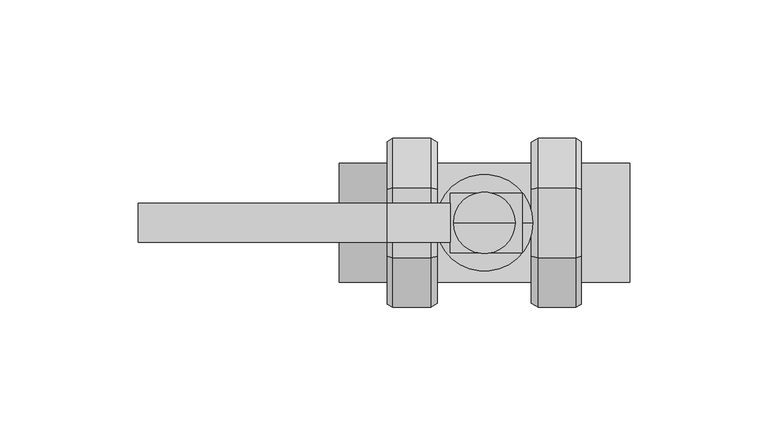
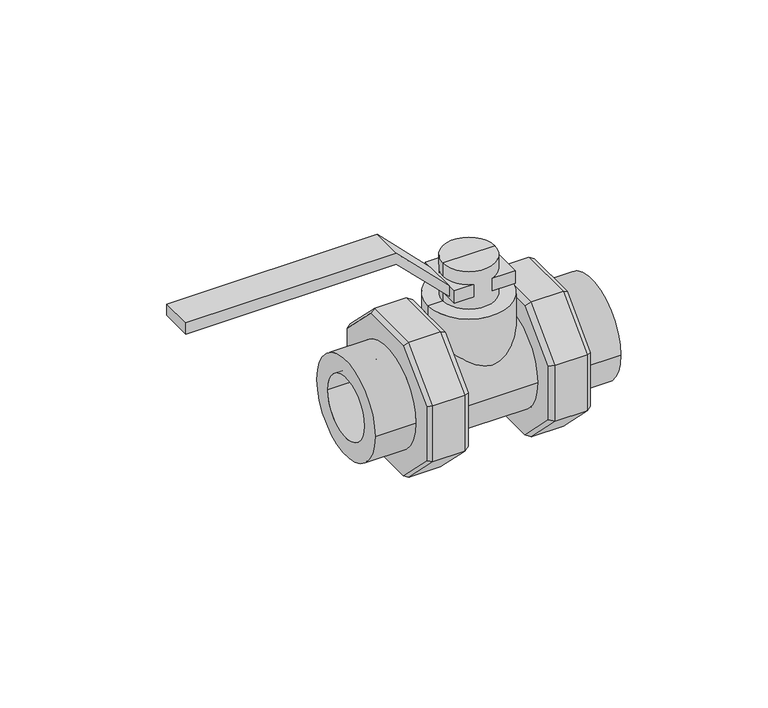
"""IFC4 building model written with IfcOpenShell, lengths in millimetres: valve geometry, EGB_VASEN_ PPR_Valvula de bola doble union WXR800 : Válvula de bola doble unión WXR800."""

from ifc_helpers import new_model, si_unit, point, frame, origin, origin_2d, place, context, project, spatial, polyline, circle_curve, trimmed, segment, composite_curve, outline, extrude, source, transform, mapped, element, save
from ifc_brep_helpers import plane_surface, cylinder_surface, revolved_surface, advanced_brep


def valve_0729169a(model_context):
    return source(origin(), model_context, "Body", "SolidModel", [
        advanced_brep(
        [(33.0, 12.6335137, 30.5), (33.0, 30.5, 12.6335137), (19.4052245, 30.5, 12.6335137), (19.4052245, 12.6335137, 30.5), (19.4052245, -12.6335137, 30.5), (33.0, -12.6335137, 30.5), (33.0, -12.6335137, -30.5), (33.0, -30.5, -12.6335137), (19.4052245, -30.5, -12.6335137), (19.4052245, -12.6335137, -30.5), (19.4052245, 12.6335137, -30.5), (33.0, 12.6335137, -30.5), (19.4052245, -30.5, 12.6335137), (33.0, -30.5, 12.6335137), (19.4052245, 30.5, -12.6335137), (33.0, 30.5, -12.6335137), (35.0, 12.155221, 29.3452995), (35.0, -12.155221, 29.3452995), (35.0, -29.3452995, 12.155221), (35.0, -29.3452995, -12.155221), (35.0, -12.155221, -29.3452995), (35.0, 12.155221, -29.3452995), (35.0, 29.3452995, -12.155221), (35.0, 29.3452995, 12.155221), (35.0, 21.5, 0.0), (35.0, -21.5, 0.0), (16.9557348, 29.0857864, 12.0477272), (16.9557348, 29.0857864, -12.0477272), (16.9557348, 12.0477272, -29.0857864), (16.9557348, -12.0477272, -29.0857864), (16.9557348, -29.0857864, -12.0477272), (16.9557348, -29.0857864, 12.0477272), (16.9557348, -12.0477272, 29.0857864), (16.9557348, 12.0477272, 29.0857864), (16.9557348, -21.5, 0.0), (16.9557348, 21.5, 0.0)],
        [
            (0, 1),
            (1, 2),
            (2, 3),
            (3, 0),
            (3, 4),
            (4, 5),
            (5, 0),
            (6, 7),
            (7, 8),
            (8, 9),
            (9, 6),
            (9, 10),
            (10, 11),
            (11, 6),
            (4, 12),
            (12, 13),
            (13, 5),
            (12, 8),
            (7, 13),
            (10, 14),
            (14, 15),
            (15, 11),
            (16, 17),
            (17, 18),
            (18, 19),
            (19, 20),
            (20, 21),
            (21, 22),
            (22, 23),
            (23, 16),
            (24, 25, circle_curve(frame((35.0, 0.0, 0.0), z_axis=(-1.0, 0.0, 0.0), x_axis=(0.0, -1.0, 0.0)), 21.5)),
            (25, 24, circle_curve(frame((35.0, 0.0, 0.0), z_axis=(-1.0, 0.0, 0.0), x_axis=(0.0, -1.0, 0.0)), 21.5)),
            (14, 2),
            (1, 15),
            (26, 27),
            (27, 28),
            (28, 29),
            (29, 30),
            (30, 31),
            (31, 32),
            (32, 33),
            (33, 26),
            (34, 35, circle_curve(frame((16.9557348, 0.0, 0.0), z_axis=(1.0, 0.0, 0.0), x_axis=(0.0, -1.0, 0.0)), 21.5)),
            (35, 34, circle_curve(frame((16.9557348, 0.0, 0.0), z_axis=(1.0, 0.0, 0.0), x_axis=(0.0, -1.0, 0.0)), 21.5)),
            (2, 26),
            (33, 3),
            (23, 1),
            (0, 16),
            (32, 4),
            (5, 17),
            (8, 30),
            (29, 9),
            (19, 7),
            (6, 20),
            (28, 10),
            (11, 21),
            (31, 12),
            (13, 18),
            (27, 14),
            (15, 22),
            (25, 34),
            (35, 24),
        ],
        [
            plane_surface(frame((35.0, 30.5, 12.6335137), z_axis=(0.0, 0.7071067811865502, 0.7071067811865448), x_axis=(0.0, -0.7071067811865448, 0.7071067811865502))),
            plane_surface(frame((35.0, 12.6335137, 30.5), z_axis=(0.0, 0.0, 1.0), x_axis=(0.0, -1.0, 0.0))),
            plane_surface(frame((35.0, -30.5, -12.6335137), z_axis=(0.0, -0.7071067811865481, -0.7071067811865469), x_axis=(0.0, 0.7071067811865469, -0.7071067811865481))),
            plane_surface(frame((35.0, -12.6335137, -30.5), z_axis=(0.0, 0.0, -1.0), x_axis=(0.0, 1.0, 0.0))),
            plane_surface(frame((35.0, -12.6335137, 30.5), z_axis=(0.0, -0.7071067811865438, 0.7071067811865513), x_axis=(0.0, -0.7071067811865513, -0.7071067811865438))),
            plane_surface(frame((35.0, -30.5, 12.6335137), z_axis=(0.0, -1.0, 0.0), x_axis=(0.0, 0.0, -1.0))),
            plane_surface(frame((35.0, 12.6335137, -30.5), z_axis=(0.0, 0.707106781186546, -0.7071067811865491), x_axis=(0.0, 0.7071067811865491, 0.707106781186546))),
            plane_surface(frame((35.0, 0.0, 0.0), z_axis=(1.0, 0.0, 0.0), x_axis=(0.0, 0.0, 1.0))),
            plane_surface(frame((35.0, 30.5, -12.6335137), z_axis=(0.0, 1.0, 0.0), x_axis=(0.0, 0.0, 1.0))),
            plane_surface(frame((16.9557348, 30.5, -12.6335137), z_axis=(-1.0, 0.0, 0.0), x_axis=(0.0, 0.0, 1.0))),
            plane_surface(frame((16.9557348, 29.0857864, 12.0477272), z_axis=(-0.4999999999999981, 0.612372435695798, 0.612372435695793), x_axis=(0.0, -0.7071067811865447, 0.7071067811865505))),
            plane_surface(frame((33.0, 30.5, 12.6335137), z_axis=(0.4999999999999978, 0.6123724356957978, 0.612372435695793), x_axis=(0.0, -0.7071067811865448, 0.7071067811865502))),
            plane_surface(frame((16.9557348, 12.0477272, 29.0857864), z_axis=(-0.499999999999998, 0.0, 0.8660254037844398), x_axis=(0.0, -1.0, 0.0))),
            plane_surface(frame((33.0, 12.6335137, 30.5), z_axis=(0.4999999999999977, 0.0, 0.86602540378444), x_axis=(0.0, -1.0, 0.0))),
            plane_surface(frame((16.9557348, -29.0857864, -12.0477272), z_axis=(-0.4999999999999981, -0.6123724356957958, -0.6123724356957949), x_axis=(0.0, 0.707106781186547, -0.707106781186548))),
            plane_surface(frame((33.0, -30.5, -12.6335137), z_axis=(0.4999999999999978, -0.6123724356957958, -0.612372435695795), x_axis=(0.0, 0.707106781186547, -0.707106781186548))),
            plane_surface(frame((16.9557348, -12.0477272, -29.0857864), z_axis=(-0.4999999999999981, 0.0, -0.8660254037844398), x_axis=(0.0, 1.0, 0.0))),
            plane_surface(frame((33.0, -12.6335137, -30.5), z_axis=(0.4999999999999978, 0.0, -0.86602540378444), x_axis=(0.0, 1.0, 0.0))),
            plane_surface(frame((16.9557348, -12.0477272, 29.0857864), z_axis=(-0.4999999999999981, -0.6123724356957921, 0.6123724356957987), x_axis=(0.0, -0.7071067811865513, -0.7071067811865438))),
            plane_surface(frame((33.0, -12.6335137, 30.5), z_axis=(0.49999999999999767, -0.6123724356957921, 0.6123724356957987), x_axis=(0.0, -0.7071067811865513, -0.7071067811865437))),
            plane_surface(frame((16.9557348, -29.0857864, 12.0477272), z_axis=(-0.4999999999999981, -0.8660254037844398, 0.0), x_axis=(0.0, 0.0, -1.0))),
            plane_surface(frame((33.0, -30.5, 12.6335137), z_axis=(0.4999999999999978, -0.86602540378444, 0.0), x_axis=(0.0, 0.0, -1.0))),
            plane_surface(frame((16.9557348, 12.0477272, -29.0857864), z_axis=(-0.4999999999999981, 0.6123724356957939, -0.6123724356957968), x_axis=(0.0, 0.7071067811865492, 0.7071067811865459))),
            plane_surface(frame((33.0, 12.6335137, -30.5), z_axis=(0.4999999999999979, 0.612372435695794, -0.6123724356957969), x_axis=(0.0, 0.7071067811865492, 0.7071067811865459))),
            plane_surface(frame((16.9557348, 29.0857864, -12.0477272), z_axis=(-0.4999999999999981, 0.8660254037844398, 0.0), x_axis=(0.0, 0.0, 1.0))),
            plane_surface(frame((33.0, 30.5, -12.6335137), z_axis=(0.4999999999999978, 0.86602540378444, 0.0), x_axis=(0.0, 0.0, 1.0))),
            revolved_surface(polyline([(16.9557348, -21.5, 0.0), (35.0, -21.5, 0.0)]), (35.0, 0.0, 0.0), (-1.0, 0.0, 0.0)),
        ],
        [
            (0, [[1, 2, 3, 4]]),
            (1, [[5, 6, 7, -4]]),
            (2, [[8, 9, 10, 11]]),
            (3, [[12, 13, 14, -11]]),
            (4, [[15, 16, 17, -6]]),
            (5, [[18, -9, 19, -16]]),
            (6, [[20, 21, 22, -13]]),
            (7, [[23, 24, 25, 26, 27, 28, 29, 30], [31, 32]]),
            (8, [[33, -2, 34, -21]]),
            (9, [[35, 36, 37, 38, 39, 40, 41, 42], [43, 44]]),
            (10, [[-3, 45, -42, 46]]),
            (11, [[-30, 47, -1, 48]]),
            (12, [[-41, 49, -5, -46]]),
            (13, [[-7, 50, -23, -48]]),
            (14, [[-10, 51, -38, 52]]),
            (15, [[-26, 53, -8, 54]]),
            (16, [[-37, 55, -12, -52]]),
            (17, [[-14, 56, -27, -54]]),
            (18, [[-40, 57, -15, -49]]),
            (19, [[-17, 58, -24, -50]]),
            (20, [[-18, -57, -39, -51]]),
            (21, [[-25, -58, -19, -53]]),
            (22, [[-36, 59, -20, -55]]),
            (23, [[-22, 60, -28, -56]]),
            (24, [[-33, -59, -35, -45]]),
            (25, [[-29, -60, -34, -47]]),
            (26, [[-32, 61, -44, 62]]),
            (26, [[-43, -61, -31, -62]]),
        ],
    ),
        advanced_brep(
        [(-33.0, 12.6335137, 30.5), (-19.4052245, 12.6335137, 30.5), (-19.4052245, 30.5, 12.6335137), (-33.0, 30.5, 12.6335137), (-33.0, -12.6335137, 30.5), (-19.4052245, -12.6335137, 30.5), (-33.0, -12.6335137, -30.5), (-19.4052245, -12.6335137, -30.5), (-19.4052245, -30.5, -12.6335137), (-33.0, -30.5, -12.6335137), (-33.0, 12.6335137, -30.5), (-19.4052245, 12.6335137, -30.5), (-33.0, -30.5, 12.6335137), (-19.4052245, -30.5, 12.6335137), (-33.0, 30.5, -12.6335137), (-19.4052245, 30.5, -12.6335137), (-35.0, 12.155221, 29.3452995), (-35.0, 29.3452995, 12.155221), (-35.0, 29.3452995, -12.155221), (-35.0, 12.155221, -29.3452995), (-35.0, -12.155221, -29.3452995), (-35.0, -29.3452995, -12.155221), (-35.0, -29.3452995, 12.155221), (-35.0, -12.155221, 29.3452995), (-35.0, 21.5, 0.0), (-35.0, -21.5, 0.0), (-16.9557348, 29.0857864, 12.0477272), (-16.9557348, 12.0477272, 29.0857864), (-16.9557348, -12.0477272, 29.0857864), (-16.9557348, -29.0857864, 12.0477272), (-16.9557348, -29.0857864, -12.0477272), (-16.9557348, -12.0477272, -29.0857864), (-16.9557348, 12.0477272, -29.0857864), (-16.9557348, 29.0857864, -12.0477272), (-16.9557348, -21.5, 0.0), (-16.9557348, 21.5, 0.0)],
        [
            (0, 1),
            (1, 2),
            (2, 3),
            (3, 0),
            (0, 4),
            (4, 5),
            (5, 1),
            (6, 7),
            (7, 8),
            (8, 9),
            (9, 6),
            (6, 10),
            (10, 11),
            (11, 7),
            (4, 12),
            (12, 13),
            (13, 5),
            (12, 9),
            (8, 13),
            (10, 14),
            (14, 15),
            (15, 11),
            (16, 17),
            (17, 18),
            (18, 19),
            (19, 20),
            (20, 21),
            (21, 22),
            (22, 23),
            (23, 16),
            (24, 25, circle_curve(frame((-35.0, 0.0, 0.0), z_axis=(1.0, 0.0, 0.0), x_axis=(0.0, -1.0, 0.0)), 21.5)),
            (25, 24, circle_curve(frame((-35.0, 0.0, 0.0), z_axis=(1.0, 0.0, 0.0), x_axis=(0.0, -1.0, 0.0)), 21.5)),
            (14, 3),
            (2, 15),
            (26, 27),
            (27, 28),
            (28, 29),
            (29, 30),
            (30, 31),
            (31, 32),
            (32, 33),
            (33, 26),
            (34, 35, circle_curve(frame((-16.9557348, 0.0, 0.0), z_axis=(-1.0, 0.0, 0.0), x_axis=(0.0, -1.0, 0.0)), 21.5)),
            (35, 34, circle_curve(frame((-16.9557348, 0.0, 0.0), z_axis=(-1.0, 0.0, 0.0), x_axis=(0.0, -1.0, 0.0)), 21.5)),
            (1, 27),
            (26, 2),
            (16, 0),
            (3, 17),
            (5, 28),
            (23, 4),
            (7, 31),
            (30, 8),
            (20, 6),
            (9, 21),
            (11, 32),
            (19, 10),
            (13, 29),
            (22, 12),
            (15, 33),
            (18, 14),
            (24, 35),
            (34, 25),
        ],
        [
            plane_surface(frame((-35.0, 30.5, 12.6335137), z_axis=(0.0, 0.7071067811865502, 0.7071067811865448), x_axis=(0.0, -0.7071067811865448, 0.7071067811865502))),
            plane_surface(frame((-35.0, 12.6335137, 30.5), z_axis=(0.0, 0.0, 1.0), x_axis=(0.0, -1.0, 0.0))),
            plane_surface(frame((-35.0, -30.5, -12.6335137), z_axis=(0.0, -0.7071067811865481, -0.7071067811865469), x_axis=(0.0, 0.7071067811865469, -0.7071067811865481))),
            plane_surface(frame((-35.0, -12.6335137, -30.5), z_axis=(0.0, 0.0, -1.0), x_axis=(0.0, 1.0, 0.0))),
            plane_surface(frame((-35.0, -12.6335137, 30.5), z_axis=(0.0, -0.7071067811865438, 0.7071067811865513), x_axis=(0.0, -0.7071067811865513, -0.7071067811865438))),
            plane_surface(frame((-35.0, -30.5, 12.6335137), z_axis=(0.0, -1.0, 0.0), x_axis=(0.0, 0.0, -1.0))),
            plane_surface(frame((-35.0, 12.6335137, -30.5), z_axis=(0.0, 0.707106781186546, -0.7071067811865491), x_axis=(0.0, 0.7071067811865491, 0.707106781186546))),
            plane_surface(frame((-35.0, 0.0, 0.0), z_axis=(-1.0, 0.0, 0.0), x_axis=(0.0, 0.0, 1.0))),
            plane_surface(frame((-35.0, 30.5, -12.6335137), z_axis=(0.0, 1.0, 0.0), x_axis=(0.0, 0.0, 1.0))),
            plane_surface(frame((-16.9557348, 30.5, -12.6335137), z_axis=(1.0, 0.0, 0.0), x_axis=(0.0, 0.0, 1.0))),
            plane_surface(frame((-16.9557348, 29.0857864, 12.0477272), z_axis=(0.4999999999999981, 0.612372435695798, 0.612372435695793), x_axis=(0.0, -0.7071067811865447, 0.7071067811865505))),
            plane_surface(frame((-33.0, 30.5, 12.6335137), z_axis=(-0.4999999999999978, 0.6123724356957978, 0.612372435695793), x_axis=(0.0, -0.7071067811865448, 0.7071067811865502))),
            plane_surface(frame((-16.9557348, 12.0477272, 29.0857864), z_axis=(0.499999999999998, 0.0, 0.8660254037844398), x_axis=(0.0, -1.0, 0.0))),
            plane_surface(frame((-33.0, 12.6335137, 30.5), z_axis=(-0.4999999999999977, 0.0, 0.86602540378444), x_axis=(0.0, -1.0, 0.0))),
            plane_surface(frame((-16.9557348, -29.0857864, -12.0477272), z_axis=(0.4999999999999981, -0.6123724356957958, -0.6123724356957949), x_axis=(0.0, 0.707106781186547, -0.707106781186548))),
            plane_surface(frame((-33.0, -30.5, -12.6335137), z_axis=(-0.4999999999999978, -0.6123724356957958, -0.612372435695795), x_axis=(0.0, 0.707106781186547, -0.707106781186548))),
            plane_surface(frame((-16.9557348, -12.0477272, -29.0857864), z_axis=(0.4999999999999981, 0.0, -0.8660254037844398), x_axis=(0.0, 1.0, 0.0))),
            plane_surface(frame((-33.0, -12.6335137, -30.5), z_axis=(-0.4999999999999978, 0.0, -0.86602540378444), x_axis=(0.0, 1.0, 0.0))),
            plane_surface(frame((-16.9557348, -12.0477272, 29.0857864), z_axis=(0.4999999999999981, -0.6123724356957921, 0.6123724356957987), x_axis=(0.0, -0.7071067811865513, -0.7071067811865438))),
            plane_surface(frame((-33.0, -12.6335137, 30.5), z_axis=(-0.49999999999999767, -0.6123724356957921, 0.6123724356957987), x_axis=(0.0, -0.7071067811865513, -0.7071067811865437))),
            plane_surface(frame((-16.9557348, -29.0857864, 12.0477272), z_axis=(0.4999999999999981, -0.8660254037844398, 0.0), x_axis=(0.0, 0.0, -1.0))),
            plane_surface(frame((-33.0, -30.5, 12.6335137), z_axis=(-0.4999999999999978, -0.86602540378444, 0.0), x_axis=(0.0, 0.0, -1.0))),
            plane_surface(frame((-16.9557348, 12.0477272, -29.0857864), z_axis=(0.4999999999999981, 0.6123724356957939, -0.6123724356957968), x_axis=(0.0, 0.7071067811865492, 0.7071067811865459))),
            plane_surface(frame((-33.0, 12.6335137, -30.5), z_axis=(-0.4999999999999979, 0.612372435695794, -0.6123724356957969), x_axis=(0.0, 0.7071067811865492, 0.7071067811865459))),
            plane_surface(frame((-16.9557348, 29.0857864, -12.0477272), z_axis=(0.4999999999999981, 0.8660254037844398, 0.0), x_axis=(0.0, 0.0, 1.0))),
            plane_surface(frame((-33.0, 30.5, -12.6335137), z_axis=(-0.4999999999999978, 0.86602540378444, 0.0), x_axis=(0.0, 0.0, 1.0))),
            revolved_surface(polyline([(-16.9557348, -21.5, 0.0), (-35.0, -21.5, 0.0)]), (-35.0, 0.0, 0.0), (1.0, 0.0, 0.0)),
        ],
        [
            (0, [[1, 2, 3, 4]]),
            (1, [[-1, 5, 6, 7]]),
            (2, [[8, 9, 10, 11]]),
            (3, [[-8, 12, 13, 14]]),
            (4, [[-6, 15, 16, 17]]),
            (5, [[-16, 18, -10, 19]]),
            (6, [[-13, 20, 21, 22]]),
            (7, [[23, 24, 25, 26, 27, 28, 29, 30], [31, 32]]),
            (8, [[-21, 33, -3, 34]]),
            (9, [[35, 36, 37, 38, 39, 40, 41, 42], [43, 44]]),
            (10, [[45, -35, 46, -2]]),
            (11, [[47, -4, 48, -23]]),
            (12, [[-45, -7, 49, -36]]),
            (13, [[-47, -30, 50, -5]]),
            (14, [[51, -39, 52, -9]]),
            (15, [[53, -11, 54, -27]]),
            (16, [[-51, -14, 55, -40]]),
            (17, [[-53, -26, 56, -12]]),
            (18, [[-49, -17, 57, -37]]),
            (19, [[-50, -29, 58, -15]]),
            (20, [[-52, -38, -57, -19]]),
            (21, [[-54, -18, -58, -28]]),
            (22, [[-55, -22, 59, -41]]),
            (23, [[-56, -25, 60, -20]]),
            (24, [[-46, -42, -59, -34]]),
            (25, [[-48, -33, -60, -24]]),
            (26, [[61, -43, 62, -31]]),
            (26, [[-61, -32, -62, -44]]),
        ],
    ),
        advanced_brep(
        [(0.0, 0.0, 0.0), (-17.5, 0.0, 0.0), (17.5, 0.0, 0.0), (11.1120112, 0.0, 51.0), (-11.1120112, 0.0, 51.0), (0.0, 0.0, 51.0), (11.1120112, 0.0, 34.0), (-11.1120112, 0.0, 34.0), (17.5, 0.0, 34.0), (-17.5, 0.0, 34.0)],
        [
            (0, 1),
            (1, 2, circle_curve(frame((0.0, 0.0, 0.0), z_axis=(0.0, 0.0, -1.0), x_axis=(-1.0, 0.0, 0.0)), 17.5)),
            (2, 0),
            (2, 1, circle_curve(frame((0.0, 0.0, 0.0), z_axis=(0.0, 0.0, -1.0), x_axis=(-1.0, 0.0, 0.0)), 17.5)),
            (3, 4, circle_curve(frame((0.0, 0.0, 51.0), z_axis=(0.0, 0.0, 1.0), x_axis=(-1.0, 0.0, 0.0)), 11.1120112)),
            (4, 5),
            (5, 3),
            (4, 3, circle_curve(frame((0.0, 0.0, 51.0), z_axis=(0.0, 0.0, 1.0), x_axis=(-1.0, 0.0, 0.0)), 11.1120112)),
            (6, 7, circle_curve(frame((0.0, 0.0, 34.0), z_axis=(0.0, 0.0, 1.0), x_axis=(-1.0, 0.0, 0.0)), 11.1120112)),
            (7, 4),
            (3, 6),
            (7, 6, circle_curve(frame((0.0, 0.0, 34.0), z_axis=(0.0, 0.0, 1.0), x_axis=(-1.0, 0.0, 0.0)), 11.1120112)),
            (8, 9, circle_curve(frame((0.0, 0.0, 34.0), z_axis=(0.0, 0.0, 1.0), x_axis=(-1.0, 0.0, 0.0)), 17.5)),
            (9, 7),
            (6, 8),
            (9, 8, circle_curve(frame((0.0, 0.0, 34.0), z_axis=(0.0, 0.0, 1.0), x_axis=(-1.0, 0.0, 0.0)), 17.5)),
            (1, 9),
            (8, 2),
        ],
        [
            plane_surface(frame((0.0, 0.0, 0.0), z_axis=(0.0, 0.0, -1.0), x_axis=(-1.0, 0.0, 0.0))),
            plane_surface(frame((0.0, 0.0, 51.0), z_axis=(0.0, 0.0, 1.0), x_axis=(-1.0, 0.0, 0.0))),
            cylinder_surface(frame((0.0, 0.0, 79.25), z_axis=(0.0, 0.0, -1.0), x_axis=(-1.0, 0.0, 0.0)), 11.1120112),
            plane_surface(frame((0.0, 0.0, 34.0), z_axis=(0.0, 0.0, 1.0), x_axis=(-1.0, 0.0, 0.0))),
            cylinder_surface(frame((0.0, 0.0, 79.25), z_axis=(0.0, 0.0, -1.0), x_axis=(-1.0, 0.0, 0.0)), 17.5),
        ],
        [
            (0, [[1, 2, 3]]),
            (0, [[-3, 4, -1]]),
            (1, [[5, 6, 7]]),
            (1, [[8, -7, -6]]),
            (2, [[9, 10, -5, 11]]),
            (2, [[12, -11, -8, -10]]),
            (3, [[13, 14, -9, 15]]),
            (3, [[16, -15, -12, -14]]),
            (4, [[-2, 17, -13, 18]]),
            (4, [[-4, -18, -16, -17]]),
        ],
    ),
        extrude(outline(composite_curve([segment(trimmed(circle_curve(origin_2d(), 21.5), [point((-21.5, 0.0))], [point((21.5, 0.0))], False, "CARTESIAN"), True, "CONTINUOUS"), segment(trimmed(circle_curve(origin_2d(), 21.5), [point((21.5, 0.0))], [point((-21.5, 0.0))], False, "CARTESIAN"), True, "CONTINUOUS")], self_intersect=False)), frame((-18.2431733, 0.0, 0.0), z_axis=(1.0, 0.0, 0.0), x_axis=(0.0, 1.0, 0.0)), (0.0, 0.0, 1.0), 36.4863466),
        extrude(outline(composite_curve([segment(trimmed(circle_curve(origin_2d(), 21.5), [point((-21.5, 0.0))], [point((21.5, 0.0))], False, "CARTESIAN"), True, "CONTINUOUS"), segment(trimmed(circle_curve(origin_2d(), 21.5), [point((21.5, 0.0))], [point((-21.5, 0.0))], False, "CARTESIAN"), True, "CONTINUOUS")], self_intersect=False), holes=[composite_curve([segment(trimmed(circle_curve(origin_2d(), 13.5), [point((-13.5, 0.0))], [point((13.5, 0.0))], True, "CARTESIAN"), True, "CONTINUOUS"), segment(trimmed(circle_curve(origin_2d(), 13.5), [point((13.5, 0.0))], [point((-13.5, 0.0))], True, "CARTESIAN"), True, "CONTINUOUS")], self_intersect=False)]), frame((-52.5, 0.0, 0.0), z_axis=(1.0, 0.0, 0.0), x_axis=(0.0, 1.0, 0.0)), (0.0, 0.0, 1.0), 17.5),
        extrude(outline(composite_curve([segment(trimmed(circle_curve(origin_2d(), 21.5), [point((-21.5, 0.0))], [point((21.5, 0.0))], False, "CARTESIAN"), True, "CONTINUOUS"), segment(trimmed(circle_curve(origin_2d(), 21.5), [point((21.5, 0.0))], [point((-21.5, 0.0))], False, "CARTESIAN"), True, "CONTINUOUS")], self_intersect=False), holes=[composite_curve([segment(trimmed(circle_curve(origin_2d(), 13.5), [point((-13.5, 0.0))], [point((13.5, 0.0))], True, "CARTESIAN"), True, "CONTINUOUS"), segment(trimmed(circle_curve(origin_2d(), 13.5), [point((13.5, 0.0))], [point((-13.5, 0.0))], True, "CARTESIAN"), True, "CONTINUOUS")], self_intersect=False)]), frame((35.0, 0.0, 0.0), z_axis=(1.0, 0.0, 0.0), x_axis=(0.0, 1.0, 0.0)), (0.0, 0.0, 1.0), 17.5),
        extrude(outline(polyline([(45.3333333, -12.3417809), (68.0, -35.0), (68.0, -125.0), (63.0, -125.0), (63.0, -35.0), (40.75, -12.3417809), (45.3333333, -12.3417809)])), frame((0.0, -7.0, 0.0), z_axis=(0.0, 1.0, 0.0), x_axis=(0.0, 0.0, 1.0)), (0.0, 0.0, 1.0), 14.0),
        extrude(outline(polyline([(13.6582191, -10.75), (-12.3417809, -10.75), (-12.3417809, 10.75), (13.6582191, 10.75), (13.6582191, -10.75)])), frame((0.0, 0.0, 39.6666667), z_axis=(0.0, 0.0, 1.0), x_axis=(1.0, 0.0, 0.0)), (0.0, 0.0, 1.0), 5.6666667),
        extrude(outline(composite_curve([segment(trimmed(circle_curve(origin_2d(), 18.0), [point((-18.0, 0.0))], [point((18.0, 0.0))], False, "CARTESIAN"), True, "CONTINUOUS"), segment(trimmed(circle_curve(origin_2d(), 18.0), [point((18.0, 0.0))], [point((-18.0, 0.0))], False, "CARTESIAN"), True, "CONTINUOUS")], self_intersect=False)), frame((-35.0, 0.0, 0.0), z_axis=(1.0, 0.0, 0.0), x_axis=(0.0, 1.0, 0.0)), (0.0, 0.0, 1.0), 16.7568267),
        extrude(outline(composite_curve([segment(trimmed(circle_curve(origin_2d(), 18.0), [point((-18.0, 0.0))], [point((18.0, 0.0))], False, "CARTESIAN"), True, "CONTINUOUS"), segment(trimmed(circle_curve(origin_2d(), 18.0), [point((18.0, 0.0))], [point((-18.0, 0.0))], False, "CARTESIAN"), True, "CONTINUOUS")], self_intersect=False)), frame((18.2431733, 0.0, 0.0), z_axis=(1.0, 0.0, 0.0), x_axis=(0.0, 1.0, 0.0)), (0.0, 0.0, 1.0), 16.7568267),
    ])


if __name__ == "__main__":
    model = new_model("IFC4")
    model_context = context("Model", 3, world=origin())
    ifc_project = project(units=[si_unit("LENGTHUNIT", "METRE", prefix="MILLI")], contexts=[model_context])
    site = spatial("IfcSite", under=ifc_project)
    building = spatial("IfcBuilding", under=site)
    placement = place(None, origin())
    valve_shape = valve_0729169a(model_context)
    element("IfcValve", 1, ObjectType="EGB_VASEN_ PPR_Valvula de bola doble union WXR800 : Válvula de bola doble unión WXR800", at=placement, inside=building, context=model_context, shape_type="MappedRepresentation", body=[
        mapped(valve_shape, transform((0.0, 0.0, 0.0), x_axis=(1.0, 0.0, 0.0), y_axis=(0.0, 1.0, 0.0), z_axis=(0.0, 0.0, 1.0))),
    ])
    save(model, "model.ifc")
